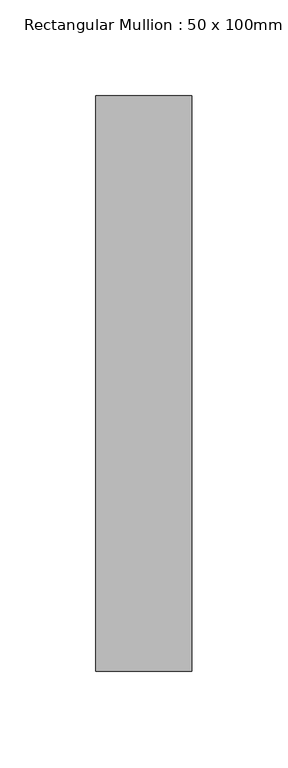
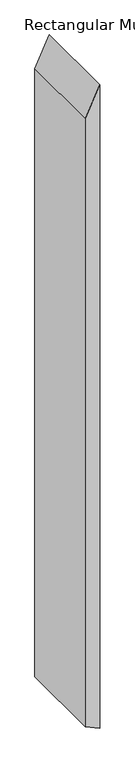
"""IFC4 building model written with IfcOpenShell, lengths in millimetres: member geometry, Rectangular Mullion : 50 x 100mm."""

from ifc_helpers import new_model, si_unit, frame, origin, place, context, project, spatial, polyline, outline, extrude, source, transform, mapped, element, save


def rectangular_mullion_50_x_100mm_a6b3a201(model_context):
    return source(origin(), model_context, "Body", "SweptSolid", [
        extrude(outline(polyline([(0.0, 0.0), (-105.5913796, -50.0), (-2321.3518163, -50.0), (-2345.0279915, 0.0), (0.0, 0.0)])), frame((0.0, -125.0, 0.0), z_axis=(0.0, 1.0, 0.0), x_axis=(0.0, 0.0, 1.0)), (0.0, 0.0, 1.0), 300.0),
    ])


if __name__ == "__main__":
    model = new_model("IFC4")
    model_context = context("Model", 3, world=origin())
    ifc_project = project(units=[si_unit("LENGTHUNIT", "METRE", prefix="MILLI")], contexts=[model_context])
    site = spatial("IfcSite", under=ifc_project)
    building = spatial("IfcBuilding", under=site)
    placement = place(None, origin())
    rectangular_mullion_50_x_100mm_shape = rectangular_mullion_50_x_100mm_a6b3a201(model_context)
    element("IfcMember", 1, ObjectType="Rectangular Mullion : 50 x 100mm", at=placement, inside=building, context=model_context, shape_type="MappedRepresentation", body=[
        mapped(rectangular_mullion_50_x_100mm_shape, transform((0.0, 0.0, 0.0), x_axis=(1.0, 0.0, 0.0), y_axis=(0.0, 1.0, 0.0), z_axis=(0.0, 0.0, 1.0))),
    ])
    save(model, "model.ifc")
